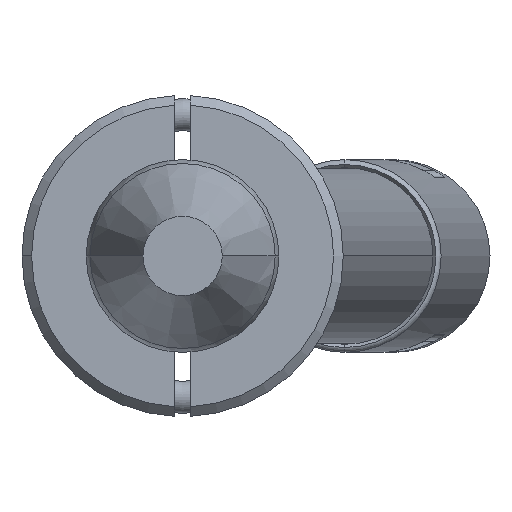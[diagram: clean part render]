
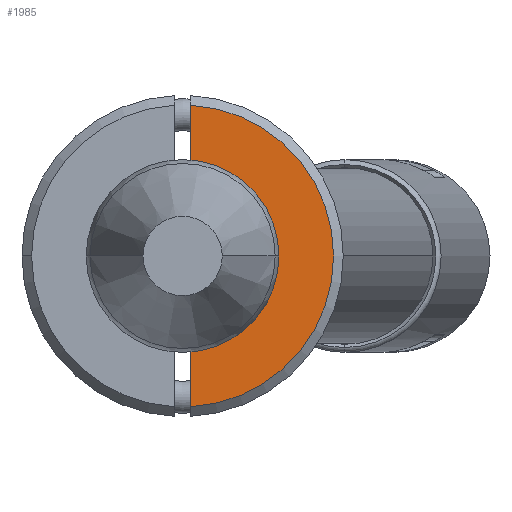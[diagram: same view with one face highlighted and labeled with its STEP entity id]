
A CAD part, front view. The second image highlights one B-rep face of the part: STEP entity #1985.
In plain terms, the highlighted planar face has unit normal (0, -1, 0).
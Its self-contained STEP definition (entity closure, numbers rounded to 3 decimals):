
#47 = EDGE_CURVE ( 'NONE', #1942, #2109, #2272, .T. ) ;
#53 = CARTESIAN_POINT ( 'NONE',  ( -5., -6., -0.25 ) ) ;
#125 = VERTEX_POINT ( 'NONE', #1401 ) ;
#159 = CARTESIAN_POINT ( 'NONE',  ( -5., -6., 0. ) ) ;
#162 = CARTESIAN_POINT ( 'NONE',  ( -2.437, -6., -0.25 ) ) ;
#266 = EDGE_CURVE ( 'NONE', #1942, #483, #3393, .T. ) ;
#293 = DIRECTION ( 'NONE',  ( 0., 0., -1. ) ) ;
#333 = AXIS2_PLACEMENT_3D ( 'NONE', #3204, #1754, #3817 ) ;
#483 = VERTEX_POINT ( 'NONE', #1166 ) ;
#608 = VECTOR ( 'NONE', #3359, 1000. ) ;
#658 = ORIENTED_EDGE ( 'NONE', *, *, #47, .F. ) ;
#694 = LINE ( 'NONE', #53, #608 ) ;
#749 = VECTOR ( 'NONE', #2012, 1000. ) ;
#850 = DIRECTION ( 'NONE',  ( 0., 1., 0. ) ) ;
#853 = CARTESIAN_POINT ( 'NONE',  ( 2.437, -6., -0.25 ) ) ;
#909 = DIRECTION ( 'NONE',  ( 0., 0., -1. ) ) ;
#1047 = DIRECTION ( 'NONE',  ( 0., -1., 0. ) ) ;
#1166 = CARTESIAN_POINT ( 'NONE',  ( 4.693, -6., -0.25 ) ) ;
#1255 = EDGE_CURVE ( 'NONE', #2208, #483, #694, .T. ) ;
#1298 = CARTESIAN_POINT ( 'NONE',  ( -4.693, -6., -0.25 ) ) ;
#1401 = CARTESIAN_POINT ( 'NONE',  ( 0., -6., -2.45 ) ) ;
#1505 = ORIENTED_EDGE ( 'NONE', *, *, #3732, .T. ) ;
#1594 = CIRCLE ( 'NONE', #1836, 2.45 ) ;
#1746 = CARTESIAN_POINT ( 'NONE',  ( -5., -6., -0.25 ) ) ;
#1754 = DIRECTION ( 'NONE',  ( 0., 1., 0. ) ) ;
#1836 = AXIS2_PLACEMENT_3D ( 'NONE', #3483, #850, #293 ) ;
#1838 = CARTESIAN_POINT ( 'NONE',  ( 0., -6., 0. ) ) ;
#1942 = VERTEX_POINT ( 'NONE', #1298 ) ;
#1985 = ADVANCED_FACE ( 'NONE', ( #3435 ), #2519, .T. ) ;
#2012 = DIRECTION ( 'NONE',  ( 1., 0., 0. ) ) ;
#2108 = AXIS2_PLACEMENT_3D ( 'NONE', #159, #1047, #3420 ) ;
#2109 = VERTEX_POINT ( 'NONE', #162 ) ;
#2208 = VERTEX_POINT ( 'NONE', #853 ) ;
#2272 = LINE ( 'NONE', #1746, #749 ) ;
#2391 = ORIENTED_EDGE ( 'NONE', *, *, #266, .T. ) ;
#2492 = EDGE_LOOP ( 'NONE', ( #658, #2391, #3027, #2516, #1505 ) ) ;
#2516 = ORIENTED_EDGE ( 'NONE', *, *, #3074, .T. ) ;
#2519 = PLANE ( 'NONE',  #2108 ) ;
#3027 = ORIENTED_EDGE ( 'NONE', *, *, #1255, .F. ) ;
#3074 = EDGE_CURVE ( 'NONE', #2208, #125, #3162, .T. ) ;
#3162 = CIRCLE ( 'NONE', #333, 2.45 ) ;
#3204 = CARTESIAN_POINT ( 'NONE',  ( 0., -6., 0. ) ) ;
#3214 = DIRECTION ( 'NONE',  ( 0., -1., 0. ) ) ;
#3359 = DIRECTION ( 'NONE',  ( 1., 0., 0. ) ) ;
#3393 = CIRCLE ( 'NONE', #3582, 4.7 ) ;
#3420 = DIRECTION ( 'NONE',  ( 0., 0., -1. ) ) ;
#3435 = FACE_OUTER_BOUND ( 'NONE', #2492, .T. ) ;
#3483 = CARTESIAN_POINT ( 'NONE',  ( 0., -6., 0. ) ) ;
#3582 = AXIS2_PLACEMENT_3D ( 'NONE', #1838, #3214, #909 ) ;
#3732 = EDGE_CURVE ( 'NONE', #125, #2109, #1594, .T. ) ;
#3817 = DIRECTION ( 'NONE',  ( 0., 0., -1. ) ) ;
